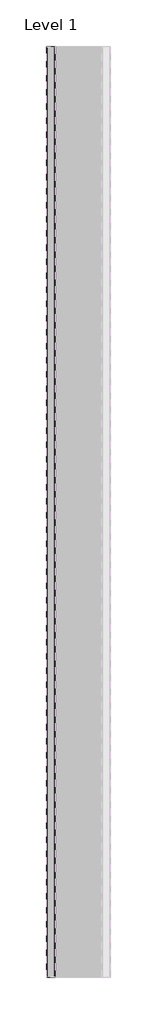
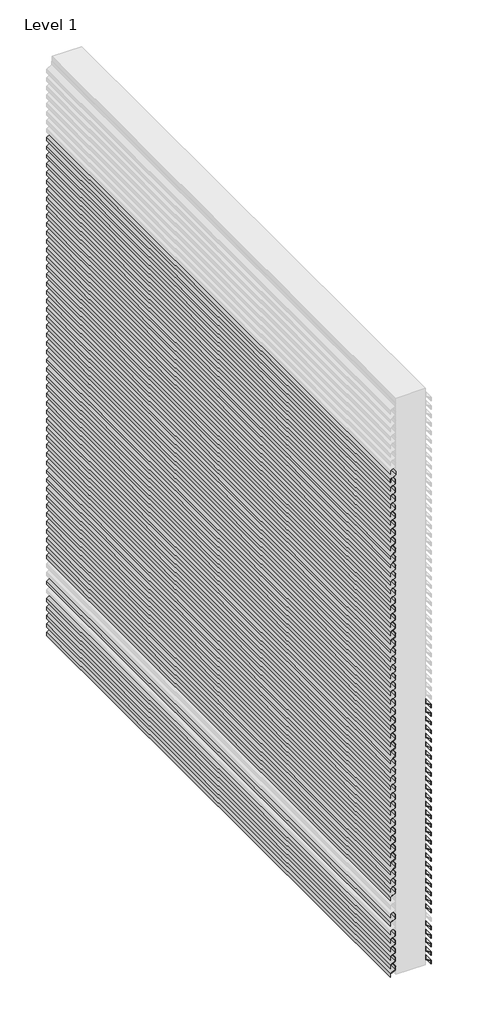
# One storey, part 68 of 69: 86 proxies.
"""IFC4 building model written with IfcOpenShell, lengths in millimetres."""

from ifc_helpers import new_model, si_unit, frame, origin, place, context, project, spatial, polyline, outline, extrude, element, save

model = new_model("IFC4")

# Units and contexts
model_context = context("Model", 3, world=origin())
ifc_project = project(units=[si_unit("LENGTHUNIT", "METRE", prefix="MILLI")], contexts=[model_context])

# Site, building, storey
site = spatial("IfcSite", under=ifc_project)
building = spatial("IfcBuilding", under=site)
storey = spatial("IfcBuildingStorey", under=building, Name="Level 1", Elevation=0.0)

# Proxies
placement = place(None, origin())
element("IfcBuildingElementProxy", 1, Name="Wall Sweeps", at=placement, inside=storey, context=model_context, shape_type="SweptSolid", body=[
    extrude(outline(polyline([(1008.3, 232580.4900207), (1019.3562577, 232561.3400207), (1032.3, 232561.3400207), (1032.3, 232560.0900207), (1018.6345698, 232560.0900207), (1007.5782281, 232579.2400207), (995.5216933, 232579.2400207), (994.8, 232580.4900207), (1008.3, 232580.4900207)])), frame((0.0, 39672.1593685, 0.0), z_axis=(0.0, 1.0, 0.0), x_axis=(0.0, 0.0, 1.0)), (0.0, 0.0, 1.0), 2200.0),
])
element("IfcBuildingElementProxy", 2, Name="Wall Sweeps", at=placement, inside=storey, context=model_context, shape_type="SweptSolid", body=[
    extrude(outline(polyline([(975.0, 232580.4900207), (986.0562577, 232561.3400207), (999.0, 232561.3400207), (999.0, 232560.0900207), (985.3345698, 232560.0900207), (974.2782281, 232579.2400207), (962.2216933, 232579.2400207), (961.5, 232580.4900207), (975.0, 232580.4900207)])), frame((0.0, 39672.1593685, 0.0), z_axis=(0.0, 1.0, 0.0), x_axis=(0.0, 0.0, 1.0)), (0.0, 0.0, 1.0), 2200.0),
])
element("IfcBuildingElementProxy", 3, Name="Wall Sweeps", at=placement, inside=storey, context=model_context, shape_type="SweptSolid", body=[
    extrude(outline(polyline([(941.7, 232580.4900207), (952.7562577, 232561.3400207), (965.7, 232561.3400207), (965.7, 232560.0900207), (952.0345698, 232560.0900207), (940.9782281, 232579.2400207), (928.9216933, 232579.2400207), (928.2, 232580.4900207), (941.7, 232580.4900207)])), frame((0.0, 39672.1593685, 0.0), z_axis=(0.0, 1.0, 0.0), x_axis=(0.0, 0.0, 1.0)), (0.0, 0.0, 1.0), 2200.0),
])
element("IfcBuildingElementProxy", 4, Name="Wall Sweeps", at=placement, inside=storey, context=model_context, shape_type="SweptSolid", body=[
    extrude(outline(polyline([(908.4, 232580.4900207), (919.4562577, 232561.3400207), (932.4, 232561.3400207), (932.4, 232560.0900207), (918.7345698, 232560.0900207), (907.6782281, 232579.2400207), (895.6216933, 232579.2400207), (894.9, 232580.4900207), (908.4, 232580.4900207)])), frame((0.0, 39672.1593685, 0.0), z_axis=(0.0, 1.0, 0.0), x_axis=(0.0, 0.0, 1.0)), (0.0, 0.0, 1.0), 2200.0),
])
element("IfcBuildingElementProxy", 5, Name="Wall Sweeps", at=placement, inside=storey, context=model_context, shape_type="SweptSolid", body=[
    extrude(outline(polyline([(875.1, 232580.4900207), (886.1562577, 232561.3400207), (899.1, 232561.3400207), (899.1, 232560.0900207), (885.4345698, 232560.0900207), (874.3782281, 232579.2400207), (862.3216933, 232579.2400207), (861.6, 232580.4900207), (875.1, 232580.4900207)])), frame((0.0, 39672.1593685, 0.0), z_axis=(0.0, 1.0, 0.0), x_axis=(0.0, 0.0, 1.0)), (0.0, 0.0, 1.0), 2200.0),
])
element("IfcBuildingElementProxy", 6, Name="Wall Sweeps", at=placement, inside=storey, context=model_context, shape_type="SweptSolid", body=[
    extrude(outline(polyline([(841.8, 232580.4900207), (852.8562577, 232561.3400207), (865.8, 232561.3400207), (865.8, 232560.0900207), (852.1345698, 232560.0900207), (841.0782281, 232579.2400207), (829.0216933, 232579.2400207), (828.3, 232580.4900207), (841.8, 232580.4900207)])), frame((0.0, 39672.1593685, 0.0), z_axis=(0.0, 1.0, 0.0), x_axis=(0.0, 0.0, 1.0)), (0.0, 0.0, 1.0), 2200.0),
])
element("IfcBuildingElementProxy", 7, Name="Wall Sweeps", at=placement, inside=storey, context=model_context, shape_type="SweptSolid", body=[
    extrude(outline(polyline([(808.5, 232580.4900207), (819.5562577, 232561.3400207), (832.5, 232561.3400207), (832.5, 232560.0900207), (818.8345698, 232560.0900207), (807.7782281, 232579.2400207), (795.7216933, 232579.2400207), (795.0, 232580.4900207), (808.5, 232580.4900207)])), frame((0.0, 39672.1593685, 0.0), z_axis=(0.0, 1.0, 0.0), x_axis=(0.0, 0.0, 1.0)), (0.0, 0.0, 1.0), 2200.0),
])
element("IfcBuildingElementProxy", 8, Name="Wall Sweeps", at=placement, inside=storey, context=model_context, shape_type="SweptSolid", body=[
    extrude(outline(polyline([(775.2, 232580.4900207), (786.2562577, 232561.3400207), (799.2, 232561.3400207), (799.2, 232560.0900207), (785.5345698, 232560.0900207), (774.4782281, 232579.2400207), (762.4216933, 232579.2400207), (761.7, 232580.4900207), (775.2, 232580.4900207)])), frame((0.0, 39672.1593685, 0.0), z_axis=(0.0, 1.0, 0.0), x_axis=(0.0, 0.0, 1.0)), (0.0, 0.0, 1.0), 2200.0),
])
element("IfcBuildingElementProxy", 9, Name="Wall Sweeps", at=placement, inside=storey, context=model_context, shape_type="SweptSolid", body=[
    extrude(outline(polyline([(741.9, 232580.4900207), (752.9562577, 232561.3400207), (765.9, 232561.3400207), (765.9, 232560.0900207), (752.2345698, 232560.0900207), (741.1782281, 232579.2400207), (729.1216933, 232579.2400207), (728.4, 232580.4900207), (741.9, 232580.4900207)])), frame((0.0, 39672.1593685, 0.0), z_axis=(0.0, 1.0, 0.0), x_axis=(0.0, 0.0, 1.0)), (0.0, 0.0, 1.0), 2200.0),
])
element("IfcBuildingElementProxy", 10, Name="Wall Sweeps", at=placement, inside=storey, context=model_context, shape_type="SweptSolid", body=[
    extrude(outline(polyline([(708.6, 232580.4900207), (719.6562577, 232561.3400207), (732.6, 232561.3400207), (732.6, 232560.0900207), (718.9345698, 232560.0900207), (707.8782281, 232579.2400207), (695.8216933, 232579.2400207), (695.1, 232580.4900207), (708.6, 232580.4900207)])), frame((0.0, 39672.1593685, 0.0), z_axis=(0.0, 1.0, 0.0), x_axis=(0.0, 0.0, 1.0)), (0.0, 0.0, 1.0), 2200.0),
])
element("IfcBuildingElementProxy", 11, Name="Wall Sweeps", at=placement, inside=storey, context=model_context, shape_type="SweptSolid", body=[
    extrude(outline(polyline([(675.3, 232580.4900207), (686.3562577, 232561.3400207), (699.3, 232561.3400207), (699.3, 232560.0900207), (685.6345698, 232560.0900207), (674.5782281, 232579.2400207), (662.5216933, 232579.2400207), (661.8, 232580.4900207), (675.3, 232580.4900207)])), frame((0.0, 39672.1593685, 0.0), z_axis=(0.0, 1.0, 0.0), x_axis=(0.0, 0.0, 1.0)), (0.0, 0.0, 1.0), 2200.0),
])
element("IfcBuildingElementProxy", 12, Name="Wall Sweeps", at=placement, inside=storey, context=model_context, shape_type="SweptSolid", body=[
    extrude(outline(polyline([(642.0, 232580.4900207), (653.0562577, 232561.3400207), (666.0, 232561.3400207), (666.0, 232560.0900207), (652.3345698, 232560.0900207), (641.2782281, 232579.2400207), (629.2216933, 232579.2400207), (628.5, 232580.4900207), (642.0, 232580.4900207)])), frame((0.0, 39672.1593685, 0.0), z_axis=(0.0, 1.0, 0.0), x_axis=(0.0, 0.0, 1.0)), (0.0, 0.0, 1.0), 2200.0),
])
element("IfcBuildingElementProxy", 13, Name="Wall Sweeps", at=placement, inside=storey, context=model_context, shape_type="SweptSolid", body=[
    extrude(outline(polyline([(608.7, 232580.4900207), (619.7562577, 232561.3400207), (632.7, 232561.3400207), (632.7, 232560.0900207), (619.0345698, 232560.0900207), (607.9782281, 232579.2400207), (595.9216933, 232579.2400207), (595.2, 232580.4900207), (608.7, 232580.4900207)])), frame((0.0, 39672.1593685, 0.0), z_axis=(0.0, 1.0, 0.0), x_axis=(0.0, 0.0, 1.0)), (0.0, 0.0, 1.0), 2200.0),
])
element("IfcBuildingElementProxy", 14, Name="Wall Sweeps", at=placement, inside=storey, context=model_context, shape_type="SweptSolid", body=[
    extrude(outline(polyline([(575.4, 232580.4900207), (586.4562577, 232561.3400207), (599.4, 232561.3400207), (599.4, 232560.0900207), (585.7345698, 232560.0900207), (574.6782281, 232579.2400207), (562.6216933, 232579.2400207), (561.9, 232580.4900207), (575.4, 232580.4900207)])), frame((0.0, 39672.1593685, 0.0), z_axis=(0.0, 1.0, 0.0), x_axis=(0.0, 0.0, 1.0)), (0.0, 0.0, 1.0), 2200.0),
])
element("IfcBuildingElementProxy", 15, Name="Wall Sweeps", at=placement, inside=storey, context=model_context, shape_type="SweptSolid", body=[
    extrude(outline(polyline([(542.1, 232580.4900207), (553.1562577, 232561.3400207), (566.1, 232561.3400207), (566.1, 232560.0900207), (552.4345698, 232560.0900207), (541.3782281, 232579.2400207), (529.3216933, 232579.2400207), (528.6, 232580.4900207), (542.1, 232580.4900207)])), frame((0.0, 39672.1593685, 0.0), z_axis=(0.0, 1.0, 0.0), x_axis=(0.0, 0.0, 1.0)), (0.0, 0.0, 1.0), 2200.0),
])
element("IfcBuildingElementProxy", 16, Name="Wall Sweeps", at=placement, inside=storey, context=model_context, shape_type="SweptSolid", body=[
    extrude(outline(polyline([(508.8, 232580.4900207), (519.8562577, 232561.3400207), (532.8, 232561.3400207), (532.8, 232560.0900207), (519.1345698, 232560.0900207), (508.0782281, 232579.2400207), (496.0216933, 232579.2400207), (495.3, 232580.4900207), (508.8, 232580.4900207)])), frame((0.0, 39672.1593685, 0.0), z_axis=(0.0, 1.0, 0.0), x_axis=(0.0, 0.0, 1.0)), (0.0, 0.0, 1.0), 2200.0),
])
element("IfcBuildingElementProxy", 17, Name="Wall Sweeps", at=placement, inside=storey, context=model_context, shape_type="SweptSolid", body=[
    extrude(outline(polyline([(475.5, 232580.4900207), (486.5562577, 232561.3400207), (499.5, 232561.3400207), (499.5, 232560.0900207), (485.8345698, 232560.0900207), (474.7782281, 232579.2400207), (462.7216933, 232579.2400207), (462.0, 232580.4900207), (475.5, 232580.4900207)])), frame((0.0, 39672.1593685, 0.0), z_axis=(0.0, 1.0, 0.0), x_axis=(0.0, 0.0, 1.0)), (0.0, 0.0, 1.0), 2200.0),
])
element("IfcBuildingElementProxy", 18, Name="Wall Sweeps", at=placement, inside=storey, context=model_context, shape_type="SweptSolid", body=[
    extrude(outline(polyline([(442.2, 232580.4900207), (453.2562577, 232561.3400207), (466.2, 232561.3400207), (466.2, 232560.0900207), (452.5345698, 232560.0900207), (441.4782281, 232579.2400207), (429.4216933, 232579.2400207), (428.7, 232580.4900207), (442.2, 232580.4900207)])), frame((0.0, 39672.1593685, 0.0), z_axis=(0.0, 1.0, 0.0), x_axis=(0.0, 0.0, 1.0)), (0.0, 0.0, 1.0), 2200.0),
])
element("IfcBuildingElementProxy", 19, Name="Wall Sweeps", at=placement, inside=storey, context=model_context, shape_type="SweptSolid", body=[
    extrude(outline(polyline([(408.9, 232580.4900207), (419.9562577, 232561.3400207), (432.9, 232561.3400207), (432.9, 232560.0900207), (419.2345698, 232560.0900207), (408.1782281, 232579.2400207), (396.1216933, 232579.2400207), (395.4, 232580.4900207), (408.9, 232580.4900207)])), frame((0.0, 39672.1593685, 0.0), z_axis=(0.0, 1.0, 0.0), x_axis=(0.0, 0.0, 1.0)), (0.0, 0.0, 1.0), 2200.0),
])
element("IfcBuildingElementProxy", 20, Name="Wall Sweeps", at=placement, inside=storey, context=model_context, shape_type="SweptSolid", body=[
    extrude(outline(polyline([(375.6, 232580.4900207), (386.6562577, 232561.3400207), (399.6, 232561.3400207), (399.6, 232560.0900207), (385.9345698, 232560.0900207), (374.8782281, 232579.2400207), (362.8216933, 232579.2400207), (362.1, 232580.4900207), (375.6, 232580.4900207)])), frame((0.0, 39672.1593685, 0.0), z_axis=(0.0, 1.0, 0.0), x_axis=(0.0, 0.0, 1.0)), (0.0, 0.0, 1.0), 2200.0),
])
element("IfcBuildingElementProxy", 21, Name="Wall Sweeps", at=placement, inside=storey, context=model_context, shape_type="SweptSolid", body=[
    extrude(outline(polyline([(342.3, 232580.4900207), (353.3562577, 232561.3400207), (366.3, 232561.3400207), (366.3, 232560.0900207), (352.6345698, 232560.0900207), (341.5782281, 232579.2400207), (329.5216933, 232579.2400207), (328.8, 232580.4900207), (342.3, 232580.4900207)])), frame((0.0, 39672.1593685, 0.0), z_axis=(0.0, 1.0, 0.0), x_axis=(0.0, 0.0, 1.0)), (0.0, 0.0, 1.0), 2200.0),
])
element("IfcBuildingElementProxy", 22, Name="Wall Sweeps", at=placement, inside=storey, context=model_context, shape_type="SweptSolid", body=[
    extrude(outline(polyline([(309.0, 232580.4900207), (320.0562577, 232561.3400207), (333.0, 232561.3400207), (333.0, 232560.0900207), (319.3345698, 232560.0900207), (308.2782281, 232579.2400207), (296.2216933, 232579.2400207), (295.5, 232580.4900207), (309.0, 232580.4900207)])), frame((0.0, 39672.1593685, 0.0), z_axis=(0.0, 1.0, 0.0), x_axis=(0.0, 0.0, 1.0)), (0.0, 0.0, 1.0), 2200.0),
])
element("IfcBuildingElementProxy", 23, Name="Wall Sweeps", at=placement, inside=storey, context=model_context, shape_type="SweptSolid", body=[
    extrude(outline(polyline([(275.7, 232580.4900207), (286.7562577, 232561.3400207), (299.7, 232561.3400207), (299.7, 232560.0900207), (286.0345698, 232560.0900207), (274.9782281, 232579.2400207), (262.9216933, 232579.2400207), (262.2, 232580.4900207), (275.7, 232580.4900207)])), frame((0.0, 39672.1593685, 0.0), z_axis=(0.0, 1.0, 0.0), x_axis=(0.0, 0.0, 1.0)), (0.0, 0.0, 1.0), 2200.0),
])
element("IfcBuildingElementProxy", 24, Name="Wall Sweeps", at=placement, inside=storey, context=model_context, shape_type="SweptSolid", body=[
    extrude(outline(polyline([(242.4, 232580.4900207), (253.4562577, 232561.3400207), (266.4, 232561.3400207), (266.4, 232560.0900207), (252.7345698, 232560.0900207), (241.6782281, 232579.2400207), (229.6216933, 232579.2400207), (228.9, 232580.4900207), (242.4, 232580.4900207)])), frame((0.0, 39672.1593685, 0.0), z_axis=(0.0, 1.0, 0.0), x_axis=(0.0, 0.0, 1.0)), (0.0, 0.0, 1.0), 2200.0),
])
element("IfcBuildingElementProxy", 25, Name="Wall Sweeps", at=placement, inside=storey, context=model_context, shape_type="SweptSolid", body=[
    extrude(outline(polyline([(209.1, 232580.4900207), (220.1562577, 232561.3400207), (233.1, 232561.3400207), (233.1, 232560.0900207), (219.4345698, 232560.0900207), (208.3782281, 232579.2400207), (196.3216933, 232579.2400207), (195.6, 232580.4900207), (209.1, 232580.4900207)])), frame((0.0, 39672.1593685, 0.0), z_axis=(0.0, 1.0, 0.0), x_axis=(0.0, 0.0, 1.0)), (0.0, 0.0, 1.0), 2200.0),
])
element("IfcBuildingElementProxy", 26, Name="Wall Sweeps", at=placement, inside=storey, context=model_context, shape_type="SweptSolid", body=[
    extrude(outline(polyline([(142.5, 232580.4900207), (153.5562577, 232561.3400207), (166.5, 232561.3400207), (166.5, 232560.0900207), (152.8345698, 232560.0900207), (141.7782281, 232579.2400207), (129.7216933, 232579.2400207), (129.0, 232580.4900207), (142.5, 232580.4900207)])), frame((0.0, 39672.1593685, 0.0), z_axis=(0.0, 1.0, 0.0), x_axis=(0.0, 0.0, 1.0)), (0.0, 0.0, 1.0), 2200.0),
])
element("IfcBuildingElementProxy", 27, Name="Wall Sweeps", at=placement, inside=storey, context=model_context, shape_type="SweptSolid", body=[
    extrude(outline(polyline([(109.2, 232580.4900207), (120.2562577, 232561.3400207), (133.2, 232561.3400207), (133.2, 232560.0900207), (119.5345698, 232560.0900207), (108.4782281, 232579.2400207), (96.4216933, 232579.2400207), (95.7, 232580.4900207), (109.2, 232580.4900207)])), frame((0.0, 39672.1593685, 0.0), z_axis=(0.0, 1.0, 0.0), x_axis=(0.0, 0.0, 1.0)), (0.0, 0.0, 1.0), 2200.0),
])
element("IfcBuildingElementProxy", 28, Name="Wall Sweeps", at=placement, inside=storey, context=model_context, shape_type="SweptSolid", body=[
    extrude(outline(polyline([(42.6, 232580.4900207), (53.6562577, 232561.3400207), (66.6, 232561.3400207), (66.6, 232560.0900207), (52.9345698, 232560.0900207), (41.8782281, 232579.2400207), (29.8216933, 232579.2400207), (29.1, 232580.4900207), (42.6, 232580.4900207)])), frame((0.0, 39672.1593685, 0.0), z_axis=(0.0, 1.0, 0.0), x_axis=(0.0, 0.0, 1.0)), (0.0, 0.0, 1.0), 2200.0),
])
element("IfcBuildingElementProxy", 29, Name="Wall Sweeps", at=placement, inside=storey, context=model_context, shape_type="SweptSolid", body=[
    extrude(outline(polyline([(9.3, 232580.4900207), (20.3562577, 232561.3400207), (33.3, 232561.3400207), (33.3, 232560.0900207), (19.6345698, 232560.0900207), (8.5782281, 232579.2400207), (-3.4783067, 232579.2400207), (-4.2, 232580.4900207), (9.3, 232580.4900207)])), frame((0.0, 39672.1593685, 0.0), z_axis=(0.0, 1.0, 0.0), x_axis=(0.0, 0.0, 1.0)), (0.0, 0.0, 1.0), 2200.0),
])
element("IfcBuildingElementProxy", 30, Name="Wall Sweeps", at=placement, inside=storey, context=model_context, shape_type="SweptSolid", body=[
    extrude(outline(polyline([(309.3, 232428.6900207), (295.8, 232428.6900207), (296.5216933, 232429.9400207), (308.5782281, 232429.9400207), (319.6345698, 232449.0900207), (333.3, 232449.0900207), (333.3, 232447.8400207), (320.3562577, 232447.8400207), (309.3, 232428.6900207)])), frame((0.0, 39672.1593685, 0.0), z_axis=(0.0, 1.0, 0.0), x_axis=(0.0, 0.0, 1.0)), (0.0, 0.0, 1.0), 2200.0),
])
element("IfcBuildingElementProxy", 31, Name="Wall Sweeps", at=placement, inside=storey, context=model_context, shape_type="SweptSolid", body=[
    extrude(outline(polyline([(1075.9, 232428.6900207), (1062.4, 232428.6900207), (1063.1216933, 232429.9400207), (1075.1782281, 232429.9400207), (1086.2345698, 232449.0900207), (1099.9, 232449.0900207), (1099.9, 232447.8400207), (1086.9562577, 232447.8400207), (1075.9, 232428.6900207)])), frame((0.0, 39672.1593685, 0.0), z_axis=(0.0, 1.0, 0.0), x_axis=(0.0, 0.0, 1.0)), (0.0, 0.0, 1.0), 2200.0),
])
element("IfcBuildingElementProxy", 32, Name="Wall Sweeps", at=placement, inside=storey, context=model_context, shape_type="SweptSolid", body=[
    extrude(outline(polyline([(1409.2, 232428.6900207), (1395.7, 232428.6900207), (1396.4216933, 232429.9400207), (1408.4782281, 232429.9400207), (1419.5345698, 232449.0900207), (1433.2, 232449.0900207), (1433.2, 232447.8400207), (1420.2562577, 232447.8400207), (1409.2, 232428.6900207)])), frame((0.0, 39672.1593685, 0.0), z_axis=(0.0, 1.0, 0.0), x_axis=(0.0, 0.0, 1.0)), (0.0, 0.0, 1.0), 2200.0),
])
element("IfcBuildingElementProxy", 33, Name="Wall Sweeps", at=placement, inside=storey, context=model_context, shape_type="SweptSolid", body=[
    extrude(outline(polyline([(1641.0, 232428.6900207), (1627.5, 232428.6900207), (1628.2216933, 232429.9400207), (1640.2782281, 232429.9400207), (1651.3345698, 232449.0900207), (1665.0, 232449.0900207), (1665.0, 232447.8400207), (1652.0562577, 232447.8400207), (1641.0, 232428.6900207)])), frame((0.0, 39672.1593685, 0.0), z_axis=(0.0, 1.0, 0.0), x_axis=(0.0, 0.0, 1.0)), (0.0, 0.0, 1.0), 2200.0),
])
element("IfcBuildingElementProxy", 34, Name="Wall Sweeps", at=placement, inside=storey, context=model_context, shape_type="SweptSolid", body=[
    extrude(outline(polyline([(209.3, 232428.6900207), (195.8, 232428.6900207), (196.5216933, 232429.9400207), (208.5782281, 232429.9400207), (219.6345698, 232449.0900207), (233.3, 232449.0900207), (233.3, 232447.8400207), (220.3562577, 232447.8400207), (209.3, 232428.6900207)])), frame((0.0, 39672.1593685, 0.0), z_axis=(0.0, 1.0, 0.0), x_axis=(0.0, 0.0, 1.0)), (0.0, 0.0, 1.0), 2200.0),
])
element("IfcBuildingElementProxy", 35, Name="Wall Sweeps", at=placement, inside=storey, context=model_context, shape_type="SweptSolid", body=[
    extrude(outline(polyline([(9.3, 232428.6900207), (-4.2, 232428.6900207), (-3.4783067, 232429.9400207), (8.5782281, 232429.9400207), (19.6345698, 232449.0900207), (33.3, 232449.0900207), (33.3, 232447.8400207), (20.3562577, 232447.8400207), (9.3, 232428.6900207)])), frame((0.0, 39672.1593685, 0.0), z_axis=(0.0, 1.0, 0.0), x_axis=(0.0, 0.0, 1.0)), (0.0, 0.0, 1.0), 2200.0),
])
element("IfcBuildingElementProxy", 36, Name="Wall Sweeps", at=placement, inside=storey, context=model_context, shape_type="SweptSolid", body=[
    extrude(outline(polyline([(342.6, 232428.6900207), (329.1, 232428.6900207), (329.8216933, 232429.9400207), (341.8782281, 232429.9400207), (352.9345698, 232449.0900207), (366.6, 232449.0900207), (366.6, 232447.8400207), (353.6562577, 232447.8400207), (342.6, 232428.6900207)])), frame((0.0, 39672.1593685, 0.0), z_axis=(0.0, 1.0, 0.0), x_axis=(0.0, 0.0, 1.0)), (0.0, 0.0, 1.0), 2200.0),
])
element("IfcBuildingElementProxy", 37, Name="Wall Sweeps", at=placement, inside=storey, context=model_context, shape_type="SweptSolid", body=[
    extrude(outline(polyline([(376.0, 232428.6900207), (362.5, 232428.6900207), (363.2216933, 232429.9400207), (375.2782281, 232429.9400207), (386.3345698, 232449.0900207), (400.0, 232449.0900207), (400.0, 232447.8400207), (387.0562577, 232447.8400207), (376.0, 232428.6900207)])), frame((0.0, 39672.1593685, 0.0), z_axis=(0.0, 1.0, 0.0), x_axis=(0.0, 0.0, 1.0)), (0.0, 0.0, 1.0), 2200.0),
])
element("IfcBuildingElementProxy", 38, Name="Wall Sweeps", at=placement, inside=storey, context=model_context, shape_type="SweptSolid", body=[
    extrude(outline(polyline([(409.3, 232428.6900207), (395.8, 232428.6900207), (396.5216933, 232429.9400207), (408.5782281, 232429.9400207), (419.6345698, 232449.0900207), (433.3, 232449.0900207), (433.3, 232447.8400207), (420.3562577, 232447.8400207), (409.3, 232428.6900207)])), frame((0.0, 39672.1593685, 0.0), z_axis=(0.0, 1.0, 0.0), x_axis=(0.0, 0.0, 1.0)), (0.0, 0.0, 1.0), 2200.0),
])
element("IfcBuildingElementProxy", 39, Name="Wall Sweeps", at=placement, inside=storey, context=model_context, shape_type="SweptSolid", body=[
    extrude(outline(polyline([(442.6, 232428.6900207), (429.1, 232428.6900207), (429.8216933, 232429.9400207), (441.8782281, 232429.9400207), (452.9345698, 232449.0900207), (466.6, 232449.0900207), (466.6, 232447.8400207), (453.6562577, 232447.8400207), (442.6, 232428.6900207)])), frame((0.0, 39672.1593685, 0.0), z_axis=(0.0, 1.0, 0.0), x_axis=(0.0, 0.0, 1.0)), (0.0, 0.0, 1.0), 2200.0),
])
element("IfcBuildingElementProxy", 40, Name="Wall Sweeps", at=placement, inside=storey, context=model_context, shape_type="SweptSolid", body=[
    extrude(outline(polyline([(476.0, 232428.6900207), (462.5, 232428.6900207), (463.2216933, 232429.9400207), (475.2782281, 232429.9400207), (486.3345698, 232449.0900207), (500.0, 232449.0900207), (500.0, 232447.8400207), (487.0562577, 232447.8400207), (476.0, 232428.6900207)])), frame((0.0, 39672.1593685, 0.0), z_axis=(0.0, 1.0, 0.0), x_axis=(0.0, 0.0, 1.0)), (0.0, 0.0, 1.0), 2200.0),
])
element("IfcBuildingElementProxy", 41, Name="Wall Sweeps", at=placement, inside=storey, context=model_context, shape_type="SweptSolid", body=[
    extrude(outline(polyline([(509.3, 232428.6900207), (495.8, 232428.6900207), (496.5216933, 232429.9400207), (508.5782281, 232429.9400207), (519.6345698, 232449.0900207), (533.3, 232449.0900207), (533.3, 232447.8400207), (520.3562577, 232447.8400207), (509.3, 232428.6900207)])), frame((0.0, 39672.1593685, 0.0), z_axis=(0.0, 1.0, 0.0), x_axis=(0.0, 0.0, 1.0)), (0.0, 0.0, 1.0), 2200.0),
])
element("IfcBuildingElementProxy", 42, Name="Wall Sweeps", at=placement, inside=storey, context=model_context, shape_type="SweptSolid", body=[
    extrude(outline(polyline([(542.6, 232428.6900207), (529.1, 232428.6900207), (529.8216933, 232429.9400207), (541.8782281, 232429.9400207), (552.9345698, 232449.0900207), (566.6, 232449.0900207), (566.6, 232447.8400207), (553.6562577, 232447.8400207), (542.6, 232428.6900207)])), frame((0.0, 39672.1593685, 0.0), z_axis=(0.0, 1.0, 0.0), x_axis=(0.0, 0.0, 1.0)), (0.0, 0.0, 1.0), 2200.0),
])
element("IfcBuildingElementProxy", 43, Name="Wall Sweeps", at=placement, inside=storey, context=model_context, shape_type="SweptSolid", body=[
    extrude(outline(polyline([(575.9, 232428.6900207), (562.4, 232428.6900207), (563.1216933, 232429.9400207), (575.1782281, 232429.9400207), (586.2345698, 232449.0900207), (599.9, 232449.0900207), (599.9, 232447.8400207), (586.9562577, 232447.8400207), (575.9, 232428.6900207)])), frame((0.0, 39672.1593685, 0.0), z_axis=(0.0, 1.0, 0.0), x_axis=(0.0, 0.0, 1.0)), (0.0, 0.0, 1.0), 2200.0),
])
element("IfcBuildingElementProxy", 44, Name="Wall Sweeps", at=placement, inside=storey, context=model_context, shape_type="SweptSolid", body=[
    extrude(outline(polyline([(609.3, 232428.6900207), (595.8, 232428.6900207), (596.5216933, 232429.9400207), (608.5782281, 232429.9400207), (619.6345698, 232449.0900207), (633.3, 232449.0900207), (633.3, 232447.8400207), (620.3562577, 232447.8400207), (609.3, 232428.6900207)])), frame((0.0, 39672.1593685, 0.0), z_axis=(0.0, 1.0, 0.0), x_axis=(0.0, 0.0, 1.0)), (0.0, 0.0, 1.0), 2200.0),
])
element("IfcBuildingElementProxy", 45, Name="Wall Sweeps", at=placement, inside=storey, context=model_context, shape_type="SweptSolid", body=[
    extrude(outline(polyline([(642.6, 232428.6900207), (629.1, 232428.6900207), (629.8216933, 232429.9400207), (641.8782281, 232429.9400207), (652.9345698, 232449.0900207), (666.6, 232449.0900207), (666.6, 232447.8400207), (653.6562577, 232447.8400207), (642.6, 232428.6900207)])), frame((0.0, 39672.1593685, 0.0), z_axis=(0.0, 1.0, 0.0), x_axis=(0.0, 0.0, 1.0)), (0.0, 0.0, 1.0), 2200.0),
])
element("IfcBuildingElementProxy", 46, Name="Wall Sweeps", at=placement, inside=storey, context=model_context, shape_type="SweptSolid", body=[
    extrude(outline(polyline([(42.7, 232428.6900207), (29.2, 232428.6900207), (29.9216933, 232429.9400207), (41.9782281, 232429.9400207), (53.0345698, 232449.0900207), (66.7, 232449.0900207), (66.7, 232447.8400207), (53.7562577, 232447.8400207), (42.7, 232428.6900207)])), frame((0.0, 39672.1593685, 0.0), z_axis=(0.0, 1.0, 0.0), x_axis=(0.0, 0.0, 1.0)), (0.0, 0.0, 1.0), 2200.0),
])
element("IfcBuildingElementProxy", 47, Name="Wall Sweeps", at=placement, inside=storey, context=model_context, shape_type="SweptSolid", body=[
    extrude(outline(polyline([(675.9, 232428.6900207), (662.4, 232428.6900207), (663.1216933, 232429.9400207), (675.1782281, 232429.9400207), (686.2345698, 232449.0900207), (699.9, 232449.0900207), (699.9, 232447.8400207), (686.9562577, 232447.8400207), (675.9, 232428.6900207)])), frame((0.0, 39672.1593685, 0.0), z_axis=(0.0, 1.0, 0.0), x_axis=(0.0, 0.0, 1.0)), (0.0, 0.0, 1.0), 2200.0),
])
element("IfcBuildingElementProxy", 48, Name="Wall Sweeps", at=placement, inside=storey, context=model_context, shape_type="SweptSolid", body=[
    extrude(outline(polyline([(709.3, 232428.6900207), (695.8, 232428.6900207), (696.5216933, 232429.9400207), (708.5782281, 232429.9400207), (719.6345698, 232449.0900207), (733.3, 232449.0900207), (733.3, 232447.8400207), (720.3562577, 232447.8400207), (709.3, 232428.6900207)])), frame((0.0, 39672.1593685, 0.0), z_axis=(0.0, 1.0, 0.0), x_axis=(0.0, 0.0, 1.0)), (0.0, 0.0, 1.0), 2200.0),
])
element("IfcBuildingElementProxy", 49, Name="Wall Sweeps", at=placement, inside=storey, context=model_context, shape_type="SweptSolid", body=[
    extrude(outline(polyline([(742.6, 232428.6900207), (729.1, 232428.6900207), (729.8216933, 232429.9400207), (741.8782281, 232429.9400207), (752.9345698, 232449.0900207), (766.6, 232449.0900207), (766.6, 232447.8400207), (753.6562577, 232447.8400207), (742.6, 232428.6900207)])), frame((0.0, 39672.1593685, 0.0), z_axis=(0.0, 1.0, 0.0), x_axis=(0.0, 0.0, 1.0)), (0.0, 0.0, 1.0), 2200.0),
])
element("IfcBuildingElementProxy", 50, Name="Wall Sweeps", at=placement, inside=storey, context=model_context, shape_type="SweptSolid", body=[
    extrude(outline(polyline([(775.9, 232428.6900207), (762.4, 232428.6900207), (763.1216933, 232429.9400207), (775.1782281, 232429.9400207), (786.2345698, 232449.0900207), (799.9, 232449.0900207), (799.9, 232447.8400207), (786.9562577, 232447.8400207), (775.9, 232428.6900207)])), frame((0.0, 39672.1593685, 0.0), z_axis=(0.0, 1.0, 0.0), x_axis=(0.0, 0.0, 1.0)), (0.0, 0.0, 1.0), 2200.0),
])
element("IfcBuildingElementProxy", 51, Name="Wall Sweeps", at=placement, inside=storey, context=model_context, shape_type="SweptSolid", body=[
    extrude(outline(polyline([(809.3, 232428.6900207), (795.8, 232428.6900207), (796.5216933, 232429.9400207), (808.5782281, 232429.9400207), (819.6345698, 232449.0900207), (833.3, 232449.0900207), (833.3, 232447.8400207), (820.3562577, 232447.8400207), (809.3, 232428.6900207)])), frame((0.0, 39672.1593685, 0.0), z_axis=(0.0, 1.0, 0.0), x_axis=(0.0, 0.0, 1.0)), (0.0, 0.0, 1.0), 2200.0),
])
element("IfcBuildingElementProxy", 52, Name="Wall Sweeps", at=placement, inside=storey, context=model_context, shape_type="SweptSolid", body=[
    extrude(outline(polyline([(842.6, 232428.6900207), (829.1, 232428.6900207), (829.8216933, 232429.9400207), (841.8782281, 232429.9400207), (852.9345698, 232449.0900207), (866.6, 232449.0900207), (866.6, 232447.8400207), (853.6562577, 232447.8400207), (842.6, 232428.6900207)])), frame((0.0, 39672.1593685, 0.0), z_axis=(0.0, 1.0, 0.0), x_axis=(0.0, 0.0, 1.0)), (0.0, 0.0, 1.0), 2200.0),
])
element("IfcBuildingElementProxy", 53, Name="Wall Sweeps", at=placement, inside=storey, context=model_context, shape_type="SweptSolid", body=[
    extrude(outline(polyline([(875.9, 232428.6900207), (862.4, 232428.6900207), (863.1216933, 232429.9400207), (875.1782281, 232429.9400207), (886.2345698, 232449.0900207), (899.9, 232449.0900207), (899.9, 232447.8400207), (886.9562577, 232447.8400207), (875.9, 232428.6900207)])), frame((0.0, 39672.1593685, 0.0), z_axis=(0.0, 1.0, 0.0), x_axis=(0.0, 0.0, 1.0)), (0.0, 0.0, 1.0), 2200.0),
])
element("IfcBuildingElementProxy", 54, Name="Wall Sweeps", at=placement, inside=storey, context=model_context, shape_type="SweptSolid", body=[
    extrude(outline(polyline([(909.2, 232428.6900207), (895.7, 232428.6900207), (896.4216933, 232429.9400207), (908.4782281, 232429.9400207), (919.5345698, 232449.0900207), (933.2, 232449.0900207), (933.2, 232447.8400207), (920.2562577, 232447.8400207), (909.2, 232428.6900207)])), frame((0.0, 39672.1593685, 0.0), z_axis=(0.0, 1.0, 0.0), x_axis=(0.0, 0.0, 1.0)), (0.0, 0.0, 1.0), 2200.0),
])
element("IfcBuildingElementProxy", 55, Name="Wall Sweeps", at=placement, inside=storey, context=model_context, shape_type="SweptSolid", body=[
    extrude(outline(polyline([(942.6, 232428.6900207), (929.1, 232428.6900207), (929.8216933, 232429.9400207), (941.8782281, 232429.9400207), (952.9345698, 232449.0900207), (966.6, 232449.0900207), (966.6, 232447.8400207), (953.6562577, 232447.8400207), (942.6, 232428.6900207)])), frame((0.0, 39672.1593685, 0.0), z_axis=(0.0, 1.0, 0.0), x_axis=(0.0, 0.0, 1.0)), (0.0, 0.0, 1.0), 2200.0),
])
element("IfcBuildingElementProxy", 56, Name="Wall Sweeps", at=placement, inside=storey, context=model_context, shape_type="SweptSolid", body=[
    extrude(outline(polyline([(975.9, 232428.6900207), (962.4, 232428.6900207), (963.1216933, 232429.9400207), (975.1782281, 232429.9400207), (986.2345698, 232449.0900207), (999.9, 232449.0900207), (999.9, 232447.8400207), (986.9562577, 232447.8400207), (975.9, 232428.6900207)])), frame((0.0, 39672.1593685, 0.0), z_axis=(0.0, 1.0, 0.0), x_axis=(0.0, 0.0, 1.0)), (0.0, 0.0, 1.0), 2200.0),
])
element("IfcBuildingElementProxy", 57, Name="Wall Sweeps", at=placement, inside=storey, context=model_context, shape_type="SweptSolid", body=[
    extrude(outline(polyline([(76.0, 232580.4900207), (87.0562577, 232561.3400207), (100.0, 232561.3400207), (100.0, 232560.0900207), (86.3345698, 232560.0900207), (75.2782281, 232579.2400207), (63.2216933, 232579.2400207), (62.5, 232580.4900207), (76.0, 232580.4900207)])), frame((0.0, 39672.1593685, 0.0), z_axis=(0.0, 1.0, 0.0), x_axis=(0.0, 0.0, 1.0)), (0.0, 0.0, 1.0), 2200.0),
])
element("IfcBuildingElementProxy", 58, Name="Wall Sweeps", at=placement, inside=storey, context=model_context, shape_type="SweptSolid", body=[
    extrude(outline(polyline([(76.0, 232428.6900207), (62.5, 232428.6900207), (63.2216933, 232429.9400207), (75.2782281, 232429.9400207), (86.3345698, 232449.0900207), (100.0, 232449.0900207), (100.0, 232447.8400207), (87.0562577, 232447.8400207), (76.0, 232428.6900207)])), frame((0.0, 39672.1593685, 0.0), z_axis=(0.0, 1.0, 0.0), x_axis=(0.0, 0.0, 1.0)), (0.0, 0.0, 1.0), 2200.0),
])
element("IfcBuildingElementProxy", 59, Name="Wall Sweeps", at=placement, inside=storey, context=model_context, shape_type="SweptSolid", body=[
    extrude(outline(polyline([(1009.2, 232428.6900207), (995.7, 232428.6900207), (996.4216933, 232429.9400207), (1008.4782281, 232429.9400207), (1019.5345698, 232449.0900207), (1033.2, 232449.0900207), (1033.2, 232447.8400207), (1020.2562577, 232447.8400207), (1009.2, 232428.6900207)])), frame((0.0, 39672.1593685, 0.0), z_axis=(0.0, 1.0, 0.0), x_axis=(0.0, 0.0, 1.0)), (0.0, 0.0, 1.0), 2200.0),
])
element("IfcBuildingElementProxy", 60, Name="Wall Sweeps", at=placement, inside=storey, context=model_context, shape_type="SweptSolid", body=[
    extrude(outline(polyline([(1042.6, 232428.6900207), (1029.1, 232428.6900207), (1029.8216933, 232429.9400207), (1041.8782281, 232429.9400207), (1052.9345698, 232449.0900207), (1066.6, 232449.0900207), (1066.6, 232447.8400207), (1053.6562577, 232447.8400207), (1042.6, 232428.6900207)])), frame((0.0, 39672.1593685, 0.0), z_axis=(0.0, 1.0, 0.0), x_axis=(0.0, 0.0, 1.0)), (0.0, 0.0, 1.0), 2200.0),
])
element("IfcBuildingElementProxy", 61, Name="Wall Sweeps", at=placement, inside=storey, context=model_context, shape_type="SweptSolid", body=[
    extrude(outline(polyline([(1109.2, 232428.6900207), (1095.7, 232428.6900207), (1096.4216933, 232429.9400207), (1108.4782281, 232429.9400207), (1119.5345698, 232449.0900207), (1133.2, 232449.0900207), (1133.2, 232447.8400207), (1120.2562577, 232447.8400207), (1109.2, 232428.6900207)])), frame((0.0, 39672.1593685, 0.0), z_axis=(0.0, 1.0, 0.0), x_axis=(0.0, 0.0, 1.0)), (0.0, 0.0, 1.0), 2200.0),
])
element("IfcBuildingElementProxy", 62, Name="Wall Sweeps", at=placement, inside=storey, context=model_context, shape_type="SweptSolid", body=[
    extrude(outline(polyline([(1142.6, 232428.6900207), (1129.1, 232428.6900207), (1129.8216933, 232429.9400207), (1141.8782281, 232429.9400207), (1152.9345698, 232449.0900207), (1166.6, 232449.0900207), (1166.6, 232447.8400207), (1153.6562577, 232447.8400207), (1142.6, 232428.6900207)])), frame((0.0, 39672.1593685, 0.0), z_axis=(0.0, 1.0, 0.0), x_axis=(0.0, 0.0, 1.0)), (0.0, 0.0, 1.0), 2200.0),
])
element("IfcBuildingElementProxy", 63, Name="Wall Sweeps", at=placement, inside=storey, context=model_context, shape_type="SweptSolid", body=[
    extrude(outline(polyline([(1175.9, 232428.6900207), (1162.4, 232428.6900207), (1163.1216933, 232429.9400207), (1175.1782281, 232429.9400207), (1186.2345698, 232449.0900207), (1199.9, 232449.0900207), (1199.9, 232447.8400207), (1186.9562577, 232447.8400207), (1175.9, 232428.6900207)])), frame((0.0, 39672.1593685, 0.0), z_axis=(0.0, 1.0, 0.0), x_axis=(0.0, 0.0, 1.0)), (0.0, 0.0, 1.0), 2200.0),
])
element("IfcBuildingElementProxy", 64, Name="Wall Sweeps", at=placement, inside=storey, context=model_context, shape_type="SweptSolid", body=[
    extrude(outline(polyline([(1209.2, 232428.6900207), (1195.7, 232428.6900207), (1196.4216933, 232429.9400207), (1208.4782281, 232429.9400207), (1219.5345698, 232449.0900207), (1233.2, 232449.0900207), (1233.2, 232447.8400207), (1220.2562577, 232447.8400207), (1209.2, 232428.6900207)])), frame((0.0, 39672.1593685, 0.0), z_axis=(0.0, 1.0, 0.0), x_axis=(0.0, 0.0, 1.0)), (0.0, 0.0, 1.0), 2200.0),
])
element("IfcBuildingElementProxy", 65, Name="Wall Sweeps", at=placement, inside=storey, context=model_context, shape_type="SweptSolid", body=[
    extrude(outline(polyline([(1242.5, 232428.6900207), (1229.0, 232428.6900207), (1229.7216933, 232429.9400207), (1241.7782281, 232429.9400207), (1252.8345698, 232449.0900207), (1266.5, 232449.0900207), (1266.5, 232447.8400207), (1253.5562577, 232447.8400207), (1242.5, 232428.6900207)])), frame((0.0, 39672.1593685, 0.0), z_axis=(0.0, 1.0, 0.0), x_axis=(0.0, 0.0, 1.0)), (0.0, 0.0, 1.0), 2200.0),
])
element("IfcBuildingElementProxy", 66, Name="Wall Sweeps", at=placement, inside=storey, context=model_context, shape_type="SweptSolid", body=[
    extrude(outline(polyline([(1275.9, 232428.6900207), (1262.4, 232428.6900207), (1263.1216933, 232429.9400207), (1275.1782281, 232429.9400207), (1286.2345698, 232449.0900207), (1299.9, 232449.0900207), (1299.9, 232447.8400207), (1286.9562577, 232447.8400207), (1275.9, 232428.6900207)])), frame((0.0, 39672.1593685, 0.0), z_axis=(0.0, 1.0, 0.0), x_axis=(0.0, 0.0, 1.0)), (0.0, 0.0, 1.0), 2200.0),
])
element("IfcBuildingElementProxy", 67, Name="Wall Sweeps", at=placement, inside=storey, context=model_context, shape_type="SweptSolid", body=[
    extrude(outline(polyline([(109.3, 232428.6900207), (95.8, 232428.6900207), (96.5216933, 232429.9400207), (108.5782281, 232429.9400207), (119.6345698, 232449.0900207), (133.3, 232449.0900207), (133.3, 232447.8400207), (120.3562577, 232447.8400207), (109.3, 232428.6900207)])), frame((0.0, 39672.1593685, 0.0), z_axis=(0.0, 1.0, 0.0), x_axis=(0.0, 0.0, 1.0)), (0.0, 0.0, 1.0), 2200.0),
])
element("IfcBuildingElementProxy", 68, Name="Wall Sweeps", at=placement, inside=storey, context=model_context, shape_type="SweptSolid", body=[
    extrude(outline(polyline([(1309.2, 232428.6900207), (1295.7, 232428.6900207), (1296.4216933, 232429.9400207), (1308.4782281, 232429.9400207), (1319.5345698, 232449.0900207), (1333.2, 232449.0900207), (1333.2, 232447.8400207), (1320.2562577, 232447.8400207), (1309.2, 232428.6900207)])), frame((0.0, 39672.1593685, 0.0), z_axis=(0.0, 1.0, 0.0), x_axis=(0.0, 0.0, 1.0)), (0.0, 0.0, 1.0), 2200.0),
])
element("IfcBuildingElementProxy", 69, Name="Wall Sweeps", at=placement, inside=storey, context=model_context, shape_type="SweptSolid", body=[
    extrude(outline(polyline([(1342.5, 232428.6900207), (1329.0, 232428.6900207), (1329.7216933, 232429.9400207), (1341.7782281, 232429.9400207), (1352.8345698, 232449.0900207), (1366.5, 232449.0900207), (1366.5, 232447.8400207), (1353.5562577, 232447.8400207), (1342.5, 232428.6900207)])), frame((0.0, 39672.1593685, 0.0), z_axis=(0.0, 1.0, 0.0), x_axis=(0.0, 0.0, 1.0)), (0.0, 0.0, 1.0), 2200.0),
])
element("IfcBuildingElementProxy", 70, Name="Wall Sweeps", at=placement, inside=storey, context=model_context, shape_type="SweptSolid", body=[
    extrude(outline(polyline([(1375.9, 232428.6900207), (1362.4, 232428.6900207), (1363.1216933, 232429.9400207), (1375.1782281, 232429.9400207), (1386.2345698, 232449.0900207), (1399.9, 232449.0900207), (1399.9, 232447.8400207), (1386.9562577, 232447.8400207), (1375.9, 232428.6900207)])), frame((0.0, 39672.1593685, 0.0), z_axis=(0.0, 1.0, 0.0), x_axis=(0.0, 0.0, 1.0)), (0.0, 0.0, 1.0), 2200.0),
])
element("IfcBuildingElementProxy", 71, Name="Wall Sweeps", at=placement, inside=storey, context=model_context, shape_type="SweptSolid", body=[
    extrude(outline(polyline([(1442.5, 232428.6900207), (1429.0, 232428.6900207), (1429.7216933, 232429.9400207), (1441.7782281, 232429.9400207), (1452.8345698, 232449.0900207), (1466.5, 232449.0900207), (1466.5, 232447.8400207), (1453.5562577, 232447.8400207), (1442.5, 232428.6900207)])), frame((0.0, 39672.1593685, 0.0), z_axis=(0.0, 1.0, 0.0), x_axis=(0.0, 0.0, 1.0)), (0.0, 0.0, 1.0), 2200.0),
])
element("IfcBuildingElementProxy", 72, Name="Wall Sweeps", at=placement, inside=storey, context=model_context, shape_type="SweptSolid", body=[
    extrude(outline(polyline([(1474.5, 232428.6900207), (1461.0, 232428.6900207), (1461.7216933, 232429.9400207), (1473.7782281, 232429.9400207), (1484.8345698, 232449.0900207), (1498.5, 232449.0900207), (1498.5, 232447.8400207), (1485.5562577, 232447.8400207), (1474.5, 232428.6900207)])), frame((0.0, 39672.1593685, 0.0), z_axis=(0.0, 1.0, 0.0), x_axis=(0.0, 0.0, 1.0)), (0.0, 0.0, 1.0), 2200.0),
])
element("IfcBuildingElementProxy", 73, Name="Wall Sweeps", at=placement, inside=storey, context=model_context, shape_type="SweptSolid", body=[
    extrude(outline(polyline([(1507.8, 232428.6900207), (1494.3, 232428.6900207), (1495.0216933, 232429.9400207), (1507.0782281, 232429.9400207), (1518.1345698, 232449.0900207), (1531.8, 232449.0900207), (1531.8, 232447.8400207), (1518.8562577, 232447.8400207), (1507.8, 232428.6900207)])), frame((0.0, 39672.1593685, 0.0), z_axis=(0.0, 1.0, 0.0), x_axis=(0.0, 0.0, 1.0)), (0.0, 0.0, 1.0), 2200.0),
])
element("IfcBuildingElementProxy", 74, Name="Wall Sweeps", at=placement, inside=storey, context=model_context, shape_type="SweptSolid", body=[
    extrude(outline(polyline([(1541.1, 232428.6900207), (1527.6, 232428.6900207), (1528.3216933, 232429.9400207), (1540.3782281, 232429.9400207), (1551.4345698, 232449.0900207), (1565.1, 232449.0900207), (1565.1, 232447.8400207), (1552.1562577, 232447.8400207), (1541.1, 232428.6900207)])), frame((0.0, 39672.1593685, 0.0), z_axis=(0.0, 1.0, 0.0), x_axis=(0.0, 0.0, 1.0)), (0.0, 0.0, 1.0), 2200.0),
])
element("IfcBuildingElementProxy", 75, Name="Wall Sweeps", at=placement, inside=storey, context=model_context, shape_type="SweptSolid", body=[
    extrude(outline(polyline([(1574.4, 232428.6900207), (1560.9, 232428.6900207), (1561.6216933, 232429.9400207), (1573.6782281, 232429.9400207), (1584.7345698, 232449.0900207), (1598.4, 232449.0900207), (1598.4, 232447.8400207), (1585.4562577, 232447.8400207), (1574.4, 232428.6900207)])), frame((0.0, 39672.1593685, 0.0), z_axis=(0.0, 1.0, 0.0), x_axis=(0.0, 0.0, 1.0)), (0.0, 0.0, 1.0), 2200.0),
])
element("IfcBuildingElementProxy", 76, Name="Wall Sweeps", at=placement, inside=storey, context=model_context, shape_type="SweptSolid", body=[
    extrude(outline(polyline([(1607.7, 232428.6900207), (1594.2, 232428.6900207), (1594.9216933, 232429.9400207), (1606.9782281, 232429.9400207), (1618.0345698, 232449.0900207), (1631.7, 232449.0900207), (1631.7, 232447.8400207), (1618.7562577, 232447.8400207), (1607.7, 232428.6900207)])), frame((0.0, 39672.1593685, 0.0), z_axis=(0.0, 1.0, 0.0), x_axis=(0.0, 0.0, 1.0)), (0.0, 0.0, 1.0), 2200.0),
])
element("IfcBuildingElementProxy", 77, Name="Wall Sweeps", at=placement, inside=storey, context=model_context, shape_type="SweptSolid", body=[
    extrude(outline(polyline([(142.7, 232428.6900207), (129.2, 232428.6900207), (129.9216933, 232429.9400207), (141.9782281, 232429.9400207), (153.0345698, 232449.0900207), (166.7, 232449.0900207), (166.7, 232447.8400207), (153.7562577, 232447.8400207), (142.7, 232428.6900207)])), frame((0.0, 39672.1593685, 0.0), z_axis=(0.0, 1.0, 0.0), x_axis=(0.0, 0.0, 1.0)), (0.0, 0.0, 1.0), 2200.0),
])
element("IfcBuildingElementProxy", 78, Name="Wall Sweeps", at=placement, inside=storey, context=model_context, shape_type="SweptSolid", body=[
    extrude(outline(polyline([(1674.3, 232428.6900207), (1660.8, 232428.6900207), (1661.5216933, 232429.9400207), (1673.5782281, 232429.9400207), (1684.6345698, 232449.0900207), (1698.3, 232449.0900207), (1698.3, 232447.8400207), (1685.3562577, 232447.8400207), (1674.3, 232428.6900207)])), frame((0.0, 39672.1593685, 0.0), z_axis=(0.0, 1.0, 0.0), x_axis=(0.0, 0.0, 1.0)), (0.0, 0.0, 1.0), 2200.0),
])
element("IfcBuildingElementProxy", 79, Name="Wall Sweeps", at=placement, inside=storey, context=model_context, shape_type="SweptSolid", body=[
    extrude(outline(polyline([(1707.7, 232428.6900207), (1694.2, 232428.6900207), (1694.9216933, 232429.9400207), (1706.9782281, 232429.9400207), (1718.0345698, 232449.0900207), (1731.7, 232449.0900207), (1731.7, 232447.8400207), (1718.7562577, 232447.8400207), (1707.7, 232428.6900207)])), frame((0.0, 39672.1593685, 0.0), z_axis=(0.0, 1.0, 0.0), x_axis=(0.0, 0.0, 1.0)), (0.0, 0.0, 1.0), 2200.0),
])
element("IfcBuildingElementProxy", 80, Name="Wall Sweeps", at=placement, inside=storey, context=model_context, shape_type="SweptSolid", body=[
    extrude(outline(polyline([(1740.9, 232428.6900207), (1727.4, 232428.6900207), (1728.1216933, 232429.9400207), (1740.1782281, 232429.9400207), (1751.2345698, 232449.0900207), (1764.9, 232449.0900207), (1764.9, 232447.8400207), (1751.9562577, 232447.8400207), (1740.9, 232428.6900207)])), frame((0.0, 39672.1593685, 0.0), z_axis=(0.0, 1.0, 0.0), x_axis=(0.0, 0.0, 1.0)), (0.0, 0.0, 1.0), 2200.0),
])
element("IfcBuildingElementProxy", 81, Name="Wall Sweeps", at=placement, inside=storey, context=model_context, shape_type="SweptSolid", body=[
    extrude(outline(polyline([(1774.2, 232428.6900207), (1760.7, 232428.6900207), (1761.4216933, 232429.9400207), (1773.4782281, 232429.9400207), (1784.5345698, 232449.0900207), (1798.2, 232449.0900207), (1798.2, 232447.8400207), (1785.2562577, 232447.8400207), (1774.2, 232428.6900207)])), frame((0.0, 39672.1593685, 0.0), z_axis=(0.0, 1.0, 0.0), x_axis=(0.0, 0.0, 1.0)), (0.0, 0.0, 1.0), 2200.0),
])
element("IfcBuildingElementProxy", 82, Name="Wall Sweeps", at=placement, inside=storey, context=model_context, shape_type="SweptSolid", body=[
    extrude(outline(polyline([(1807.5, 232428.6900207), (1794.0, 232428.6900207), (1794.7216933, 232429.9400207), (1806.7782281, 232429.9400207), (1817.8345698, 232449.0900207), (1831.5, 232449.0900207), (1831.5, 232447.8400207), (1818.5562577, 232447.8400207), (1807.5, 232428.6900207)])), frame((0.0, 39672.1593685, 0.0), z_axis=(0.0, 1.0, 0.0), x_axis=(0.0, 0.0, 1.0)), (0.0, 0.0, 1.0), 2200.0),
])
element("IfcBuildingElementProxy", 83, Name="Wall Sweeps", at=placement, inside=storey, context=model_context, shape_type="SweptSolid", body=[
    extrude(outline(polyline([(1840.8, 232428.6900207), (1827.3, 232428.6900207), (1828.0216933, 232429.9400207), (1840.0782281, 232429.9400207), (1851.1345698, 232449.0900207), (1864.8, 232449.0900207), (1864.8, 232447.8400207), (1851.8562577, 232447.8400207), (1840.8, 232428.6900207)])), frame((0.0, 39672.1593685, 0.0), z_axis=(0.0, 1.0, 0.0), x_axis=(0.0, 0.0, 1.0)), (0.0, 0.0, 1.0), 2200.0),
])
element("IfcBuildingElementProxy", 84, Name="Wall Sweeps", at=placement, inside=storey, context=model_context, shape_type="SweptSolid", body=[
    extrude(outline(polyline([(1874.1, 232428.6900207), (1860.6, 232428.6900207), (1861.3216933, 232429.9400207), (1873.3782281, 232429.9400207), (1884.4345698, 232449.0900207), (1898.1, 232449.0900207), (1898.1, 232447.8400207), (1885.1562577, 232447.8400207), (1874.1, 232428.6900207)])), frame((0.0, 39672.1593685, 0.0), z_axis=(0.0, 1.0, 0.0), x_axis=(0.0, 0.0, 1.0)), (0.0, 0.0, 1.0), 2200.0),
])
element("IfcBuildingElementProxy", 85, Name="Wall Sweeps", at=placement, inside=storey, context=model_context, shape_type="SweptSolid", body=[
    extrude(outline(polyline([(1907.4, 232428.6900207), (1893.9, 232428.6900207), (1894.6216933, 232429.9400207), (1906.6782281, 232429.9400207), (1917.7345698, 232449.0900207), (1931.4, 232449.0900207), (1931.4, 232447.8400207), (1918.4562577, 232447.8400207), (1907.4, 232428.6900207)])), frame((0.0, 39672.1593685, 0.0), z_axis=(0.0, 1.0, 0.0), x_axis=(0.0, 0.0, 1.0)), (0.0, 0.0, 1.0), 2200.0),
])
element("IfcBuildingElementProxy", 86, Name="Wall Sweeps", at=placement, inside=storey, context=model_context, shape_type="SweptSolid", body=[
    extrude(outline(polyline([(1940.7, 232429.6900207), (1927.2, 232429.6900207), (1927.9216933, 232430.9400207), (1939.9782281, 232430.9400207), (1951.0345698, 232450.0900207), (1964.7, 232450.0900207), (1964.7, 232448.8400207), (1951.7562577, 232448.8400207), (1940.7, 232429.6900207)])), frame((0.0, 39672.1593685, 0.0), z_axis=(0.0, 1.0, 0.0), x_axis=(0.0, 0.0, 1.0)), (0.0, 0.0, 1.0), 2200.0),
])

save(model, "model.ifc")
